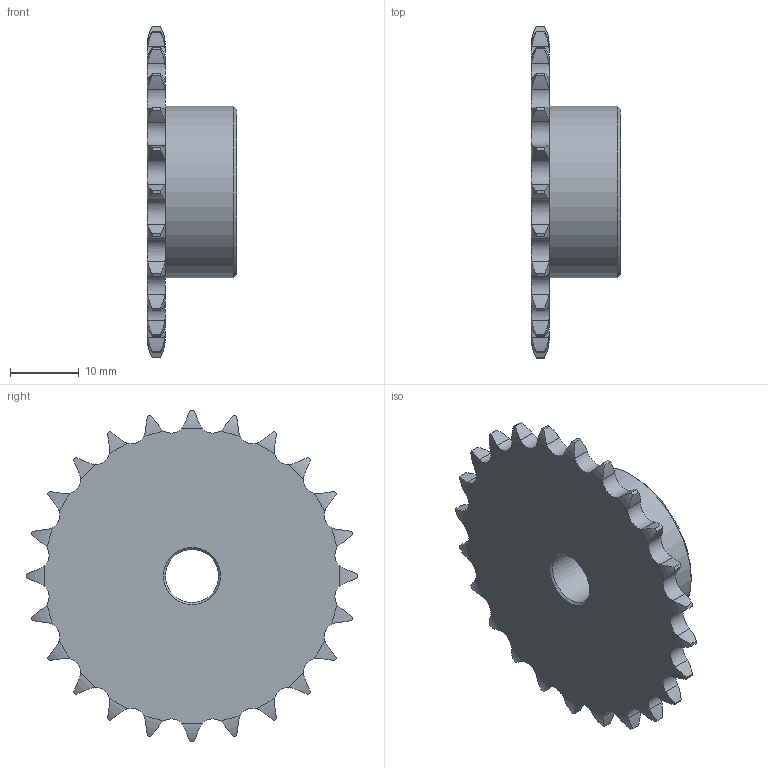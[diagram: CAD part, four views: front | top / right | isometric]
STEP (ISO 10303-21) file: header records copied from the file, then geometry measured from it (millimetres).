
FILE_DESCRIPTION(/* description */ (''),/* implementation_level */ '2;1');
FILE_NAME(/* name */ 'C:\Users\stagistaCAD\Desktop\10106024.stp',/* time_stamp */ '2018-06-21T14:21:51+02:00',/* author */ ('stagistacad'),/* organization */ (''),/* preprocessor_version */ 'ST-DEVELOPER v15.6',/* originating_system */ 'Autodesk Inventor 2015',/* authorisation */ '');
FILE_SCHEMA (('AUTOMOTIVE_DESIGN { 1 0 10303 214 3 1 1 }'));
Length unit declared in the file: millimetre
Products named in the file (1): 10106024
Bounding box: 13 x 48.3 x 48.3 mm (x, y, z)
Volume: 8440.7 mm3; surface area: 4576.6 mm2
Topology: 1 solids, 1 shells, 152 faces, 444 edges, 295 vertices
Faces by surface type: cylinder 98, torus 48, plane 3, cone 3
Full cylindrical faces by diameter (mm): 7.7 x1, 25 x1
Entity records: 5574 total; most frequent: CARTESIAN_POINT 1767, ORIENTED_EDGE 878, DIRECTION 704, EDGE_CURVE 439, AXIS2_PLACEMENT_3D 304, VERTEX_POINT 295, B_SPLINE_CURVE_WITH_KNOTS 192, EDGE_LOOP 160
